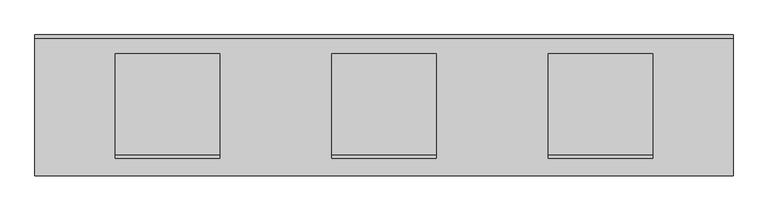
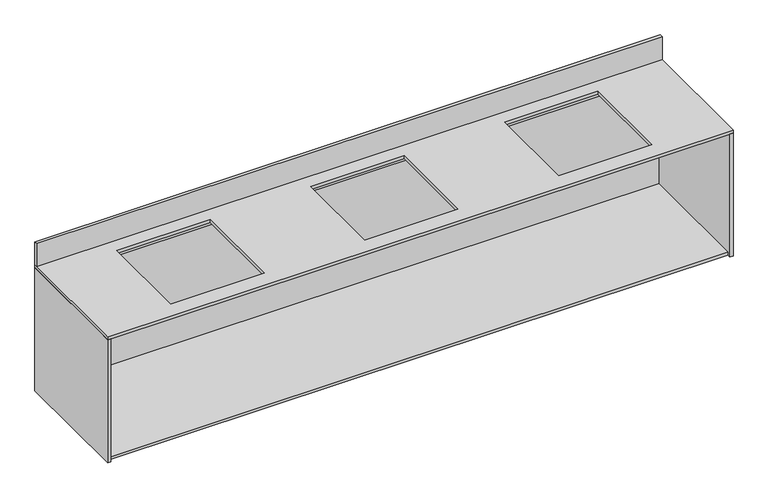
"""IFC4 building model written with IfcOpenShell, lengths in millimetres: furniture geometry, Vanity-Compact Laminate-Duracube-Cabinet Inset Basin 520 : Basins with Splashback."""

from ifc_helpers import new_model, si_unit, frame, origin, place, context, project, spatial, polyline, outline, extrude, source, transform, mapped, element, save


def furniture_397e107e(model_context):
    return source(origin(), model_context, "Body", "SweptSolid", [
        extrude(outline(polyline([(2567.0, 0.0), (2567.0, -507.0), (13.0, -507.0), (13.0, 0.0), (2567.0, 0.0)])), frame((0.0, 0.0, 300.0), z_axis=(0.0, 0.0, 1.0), x_axis=(1.0, 0.0, 0.0)), (0.0, 0.0, 1.0), 13.0),
        extrude(outline(polyline([(2567.0, -444.0), (2567.0, -494.0), (13.0, -494.0), (13.0, -444.0), (2567.0, -444.0)])), frame((0.0, 0.0, 821.0), z_axis=(0.0, 0.0, 1.0), x_axis=(1.0, 0.0, 0.0)), (0.0, 0.0, 1.0), 16.0),
        extrude(outline(polyline([(2567.0, -13.0), (2567.0, -63.0), (13.0, -63.0), (13.0, -13.0), (2567.0, -13.0)])), frame((0.0, 0.0, 821.0), z_axis=(0.0, 0.0, 1.0), x_axis=(1.0, 0.0, 0.0)), (0.0, 0.0, 1.0), 16.0),
        extrude(outline(polyline([(2567.0, 0.0), (2567.0, -13.0), (13.0, -13.0), (13.0, 0.0), (2567.0, 0.0)])), frame((0.0, 0.0, 313.0), z_axis=(0.0, 0.0, 1.0), x_axis=(1.0, 0.0, 0.0)), (0.0, 0.0, 1.0), 524.0),
        extrude(outline(polyline([(2567.0, 0.0), (2580.0, 0.0), (2580.0, -520.0), (2567.0, -520.0), (2567.0, 0.0)])), frame((0.0, 0.0, 300.0), z_axis=(0.0, 0.0, 1.0), x_axis=(1.0, 0.0, 0.0)), (0.0, 0.0, 1.0), 537.0),
        extrude(outline(polyline([(13.0, 0.0), (13.0, -520.0), (0.0, -520.0), (0.0, 0.0), (13.0, 0.0)])), frame((0.0, 0.0, 300.0), z_axis=(0.0, 0.0, 1.0), x_axis=(1.0, 0.0, 0.0)), (0.0, 0.0, 1.0), 537.0),
        extrude(outline(polyline([(2580.0, 0.0), (2580.0, -13.0), (0.0, -13.0), (0.0, 0.0), (2580.0, 0.0)])), frame((0.0, 0.0, 850.0), z_axis=(0.0, 0.0, 1.0), x_axis=(1.0, 0.0, 0.0)), (0.0, 0.0, 1.0), 100.0),
        extrude(outline(polyline([(2580.0, -520.0), (0.0, -520.0), (0.0, 0.0), (2580.0, 0.0), (2580.0, -520.0)]), holes=[polyline([(1897.5, -70.0), (1897.5, -455.0), (2282.5, -455.0), (2282.5, -70.0), (1897.5, -70.0)]), polyline([(682.5, -70.0), (297.5, -70.0), (297.5, -455.0), (682.5, -455.0), (682.5, -70.0)]), polyline([(1482.5, -70.0), (1097.5, -70.0), (1097.5, -455.0), (1482.5, -455.0), (1482.5, -70.0)])]), frame((0.0, 0.0, 837.0), z_axis=(0.0, 0.0, 1.0), x_axis=(1.0, 0.0, 0.0)), (0.0, 0.0, 1.0), 13.0),
    ])


if __name__ == "__main__":
    model = new_model("IFC4")
    model_context = context("Model", 3, world=origin())
    ifc_project = project(units=[si_unit("LENGTHUNIT", "METRE", prefix="MILLI")], contexts=[model_context])
    site = spatial("IfcSite", under=ifc_project)
    building = spatial("IfcBuilding", under=site)
    placement = place(None, origin())
    furniture_shape = furniture_397e107e(model_context)
    element("IfcFurniture", 1, ObjectType="Vanity-Compact Laminate-Duracube-Cabinet Inset Basin 520 : Basins with Splashback", at=placement, inside=building, context=model_context, shape_type="MappedRepresentation", body=[
        mapped(furniture_shape, transform((0.0, 0.0, 0.0), x_axis=(1.0, 0.0, 0.0), y_axis=(0.0, 1.0, 0.0), z_axis=(0.0, 0.0, 1.0))),
    ])
    save(model, "model.ifc")
